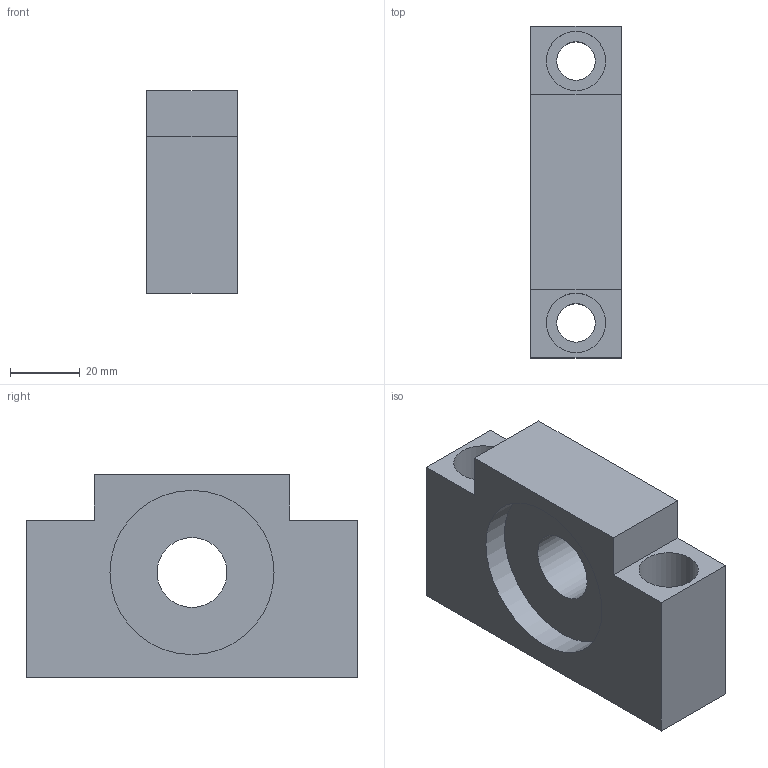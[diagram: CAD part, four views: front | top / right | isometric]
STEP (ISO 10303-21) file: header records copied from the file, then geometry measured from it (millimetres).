
FILE_DESCRIPTION(/* description */ (''),/* implementation_level */ '2;1');
FILE_NAME(/* name */ 'AF20-STP.stp',/* time_stamp */ '2019-11-18T10:57:10+08:00',/* author */ (''),/* organization */ (''),/* preprocessor_version */ 'ST-DEVELOPER v14',/* originating_system */ 'SIEMENS PLM Software NX 8.0',/* authorisation */ '');
FILE_SCHEMA (('AUTOMOTIVE_DESIGN { 1 0 10303 214 3 1 1 1 }'));
Length unit declared in the file: millimetre
Products named in the file (3): 7204; AF20-A; AF20
Assembly tree (2 placements, depth 2):
  AF20
    AF20-A
    7204
Bounding box: 26 x 95 x 58 mm (x, y, z)
Volume: 92349 mm3; surface area: 27415.1 mm2
Topology: 2 solids, 2 shells, 21 faces, 47 edges, 32 vertices
Faces by surface type: plane 14, cylinder 7
Full cylindrical faces by diameter (mm): 11 x2, 17 x2, 20 x1, 47 x2
Entity records: 622 total; most frequent: DIRECTION 100, CARTESIAN_POINT 92, ORIENTED_EDGE 76, EDGE_LOOP 38, EDGE_CURVE 38, AXIS2_PLACEMENT_3D 38, FACE_BOUND 33, VERTEX_POINT 30
